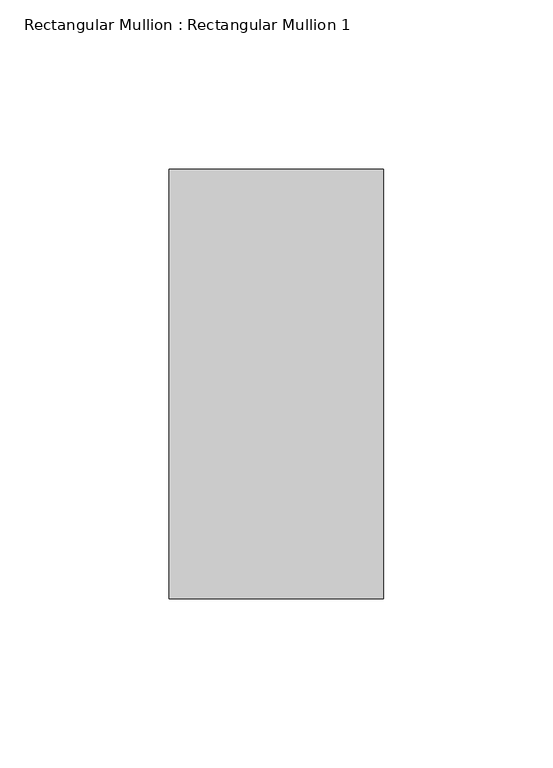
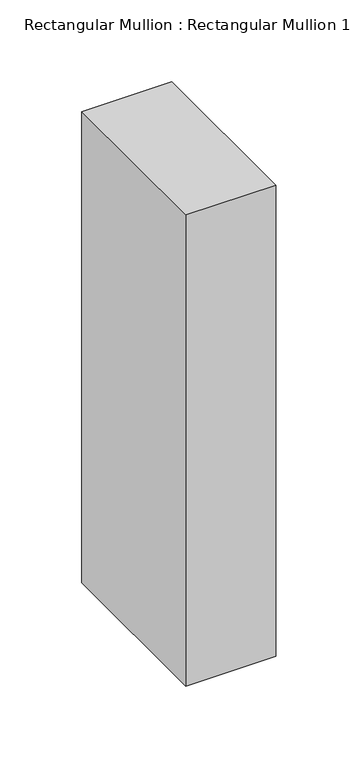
"""IFC4 building model written with IfcOpenShell, lengths in millimetres: member geometry, Rectangular Mullion : Rectangular Mullion 1."""

from ifc_helpers import new_model, si_unit, frame, origin, place, context, project, spatial, polyline, outline, extrude, source, transform, mapped, element, save


def rectangular_mullion_rectangular_mullion_1_005b3240(model_context):
    return source(origin(), model_context, "Body", "SweptSolid", [
        extrude(outline(polyline([(31.75, 63.5), (31.75, -63.5), (-31.75, -63.5), (-31.75, 63.5), (31.75, 63.5)])), frame((0.0, 0.0, -351.5783668), z_axis=(0.0, 0.0, 1.0), x_axis=(1.0, 0.0, 0.0)), (0.0, 0.0, 1.0), 351.5783668),
    ])


if __name__ == "__main__":
    model = new_model("IFC4")
    model_context = context("Model", 3, world=origin())
    ifc_project = project(units=[si_unit("LENGTHUNIT", "METRE", prefix="MILLI")], contexts=[model_context])
    site = spatial("IfcSite", under=ifc_project)
    building = spatial("IfcBuilding", under=site)
    placement = place(None, origin())
    rectangular_mullion_rectangular_mullion_1_shape = rectangular_mullion_rectangular_mullion_1_005b3240(model_context)
    element("IfcMember", 1, ObjectType="Rectangular Mullion : Rectangular Mullion 1", at=placement, inside=building, context=model_context, shape_type="MappedRepresentation", body=[
        mapped(rectangular_mullion_rectangular_mullion_1_shape, transform((0.0, 0.0, 0.0), x_axis=(1.0, 0.0, 0.0), y_axis=(0.0, 1.0, 0.0), z_axis=(0.0, 0.0, 1.0))),
    ])
    save(model, "model.ifc")
